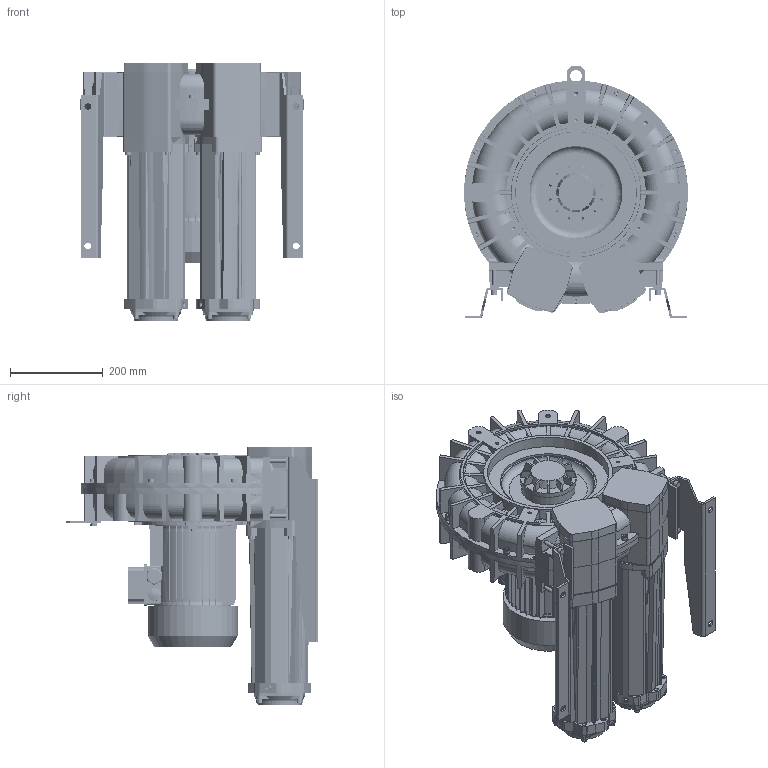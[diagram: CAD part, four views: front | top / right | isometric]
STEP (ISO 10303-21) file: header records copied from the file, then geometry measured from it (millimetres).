
FILE_DESCRIPTION (( 'STEP AP203' ), '1' );
FILE_NAME ('STP-L_e_08P_MS_MOR_IE3WR_100_4.0kW-3_25-00.step', '2025-02-28T14:49:13', ( '' ), ( '' ), 'SwSTEP 2.0', 'SolidWorks 2024', '' );
FILE_SCHEMA (( 'CONFIG_CONTROL_DESIGN' ));
Products named in the file (1): STP-L_e_08P_MS_MOR_IE3WR_100_4.0kW-3_25-00
Bounding box: 481.94 x 543 x 555 mm (x, y, z)
Volume: 36801098.5 mm3; surface area: 2495421.4 mm2
Topology: 89 solids, 97 shells, 5709 faces, 14511 edges, 9029 vertices
Faces by surface type: plane 2042, cylinder 1787, bspline 921, torus 462, cone 448, sphere 49
Full cylindrical faces by diameter (mm): 5 x16, 6 x28, 6.4 x12, 6.8 x13, 7 x4, 7.5 x4, 8 x24, 8.4 x20, 8.5 x7, 8.566 x2, 8.8 x4, 9 x8, 9.5 x4, 9.98 x2, 10 x26, 12 x2, 12.02 x2, 13 x27, 14 x14, 16 x5, 16.5 x2, 18 x2, 20 x1, 21.4 x1, 24 x4, 25 x4, 28 x1, 85.3 x2, 108 x2, 115 x2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
Entity records: 245971 total; most frequent: CARTESIAN_POINT 120288, ORIENTED_EDGE 27378, DIRECTION 24105, EDGE_CURVE 13689, AXIS2_PLACEMENT_3D 9272, VERTEX_POINT 8794, EDGE_LOOP 6483, FACE_OUTER_BOUND 6058
